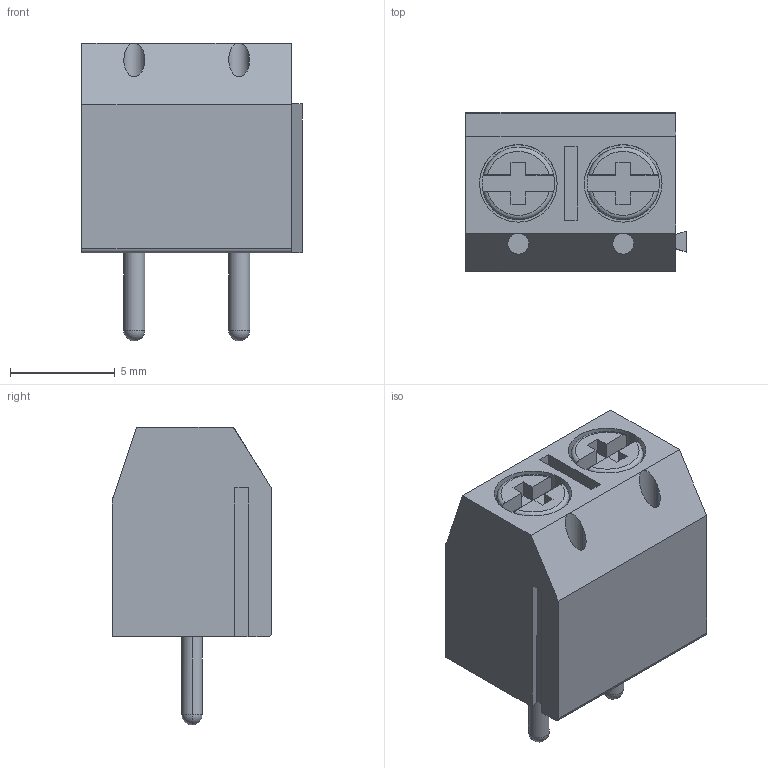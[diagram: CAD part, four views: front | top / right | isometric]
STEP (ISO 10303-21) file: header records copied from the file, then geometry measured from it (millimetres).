
FILE_DESCRIPTION (( 'STEP AP203' ), '1' );
FILE_NAME ('BR102.STEP', '2020-02-20T03:46:32', ( '' ), ( '' ), 'SwSTEP 2.0', 'SolidWorks 2019', '' );
FILE_SCHEMA (( 'CONFIG_CONTROL_DESIGN' ));
Length unit declared in the file: millimetre
Products named in the file (1): BR102
Bounding box: 10.5 x 7.6 x 14.2 mm (x, y, z)
Volume: 630 mm3; surface area: 827.1 mm2
Topology: 1 solids, 1 shells, 125 faces, 356 edges, 230 vertices
Faces by surface type: plane 84, cylinder 33, sphere 4, torus 4
Entity records: 4129 total; most frequent: CARTESIAN_POINT 846, ORIENTED_EDGE 680, DIRECTION 658, EDGE_CURVE 340, LINE 246, VECTOR 246, VERTEX_POINT 222, AXIS2_PLACEMENT_3D 206
